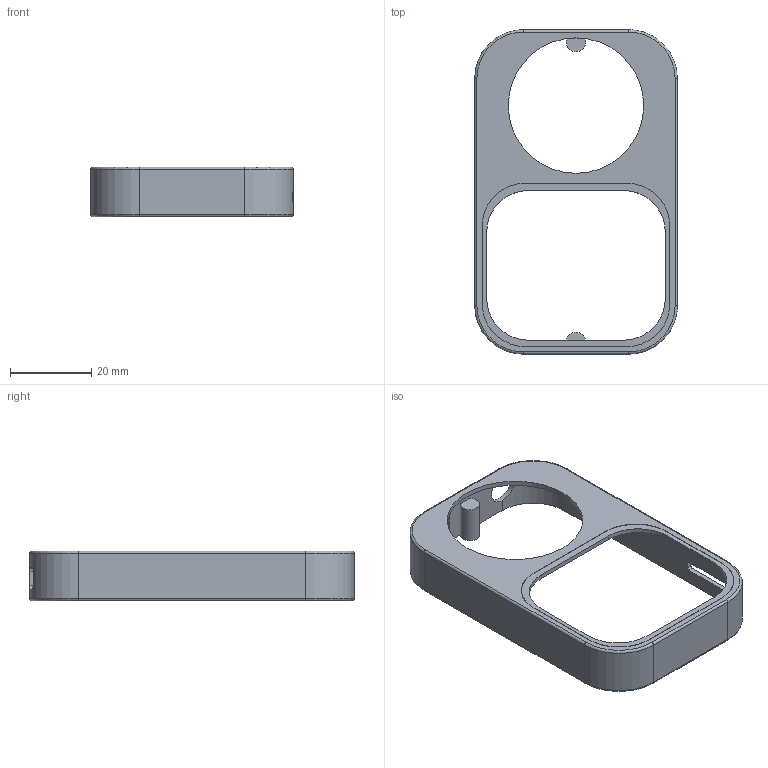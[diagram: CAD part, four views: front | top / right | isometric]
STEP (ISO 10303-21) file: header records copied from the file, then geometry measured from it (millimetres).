
FILE_DESCRIPTION(('FreeCAD Model'),'2;1');
FILE_NAME('Open CASCADE Shape Model','2026-09-21T09:51:53',('FreeCAD'),( 'FreeCAD'),'Open CASCADE STEP processor 7.8','FreeCAD','Unknown');
FILE_SCHEMA(('AUTOMOTIVE_DESIGN { 1 0 10303 214 1 1 1 1 }'));
Length unit declared in the file: millimetre
Products named in the file (1): Open CASCADE STEP translator 7.8 1
Bounding box: 50 x 80 x 12.3 mm (x, y, z)
Volume: 4986 mm3; surface area: 8774.1 mm2
Topology: 1 solids, 1 shells, 94 faces, 246 edges, 160 vertices
Faces by surface type: cylinder 46, plane 40, torus 8
Full cylindrical faces by diameter (mm): 1.3 x6, 4 x4, 7.2 x1, 33.4 x1
Entity records: 3088 total; most frequent: CARTESIAN_POINT 665, DIRECTION 528, ORIENTED_EDGE 492, EDGE_CURVE 246, AXIS2_PLACEMENT_3D 199, VERTEX_POINT 160, LINE 130, VECTOR 130
